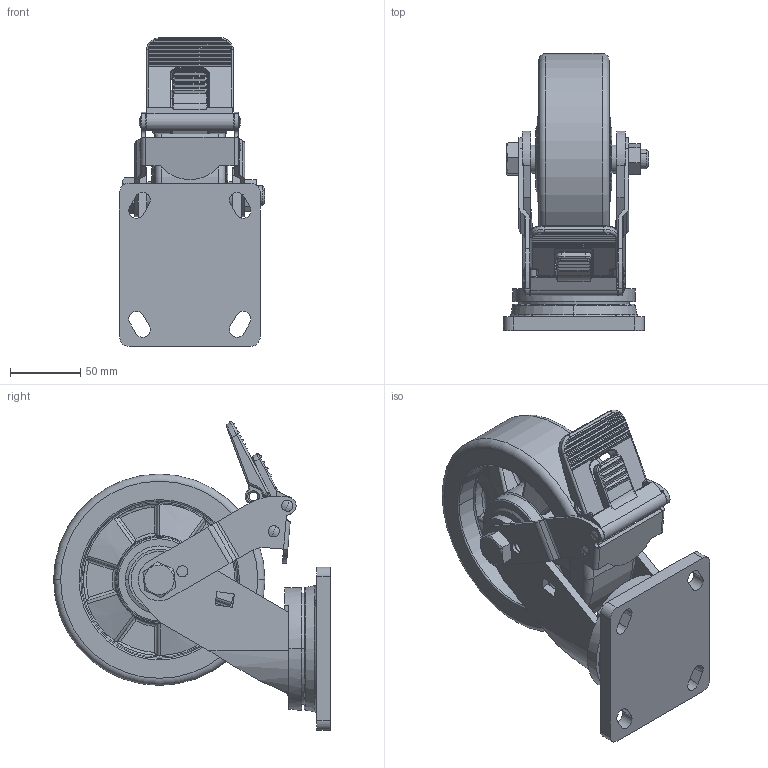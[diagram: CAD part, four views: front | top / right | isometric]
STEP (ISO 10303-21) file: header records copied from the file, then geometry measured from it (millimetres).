
FILE_DESCRIPTION((''),'2;1');
FILE_NAME('78126F-786-86A_ASM','2020-07-08T',('lenovo'),(''),'PRO/ENGINEER BY PARAMETRIC TECHNOLOGY CORPORATION, 2010280','PRO/ENGINEER BY PARAMETRIC TECHNOLOGY CORPORATION, 2010280','');
FILE_SCHEMA(('CONFIG_CONTROL_DESIGN'));
Length unit declared in the file: millimetre
Products named in the file (15): PRT0135; PRT0136; PRT0137; PRODUCT_16610; PRT0138; PRT0139; PRT0140; PRT0141; PRODUCT_33481; 780F-33-; PRT0143; PRODUCT_121059; 78126F-786-86A__________ASM_ASM; 78126F-786-86A__ASM_ASM; 78126F-786-86A_ASM
Assembly tree (16 placements, depth 4):
  78126F-786-86A_ASM
    78126F-786-86A__ASM_ASM
      78126F-786-86A__________ASM_ASM
        PRT0135
        PRT0136
        PRT0137
        PRODUCT_16610  x3
        PRT0138
        PRT0139
        PRT0140
        PRT0141
        PRODUCT_33481
        780F-33-
        PRT0143
        PRODUCT_121059
Bounding box: 103 x 196.5 x 219.31 mm (x, y, z)
Volume: 1001817 mm3; surface area: 204873 mm2
Topology: 14 solids, 14 shells, 652 faces, 1613 edges, 996 vertices
Faces by surface type: cylinder 256, plane 231, torus 71, cone 52, bspline 31, sphere 11
Entity records: 22168 total; most frequent: CARTESIAN_POINT 6590, DIRECTION 3281, ORIENTED_EDGE 3180, EDGE_CURVE 1590, AXIS2_PLACEMENT_3D 1276, VERTEX_POINT 982, VECTOR 729, LINE 729
